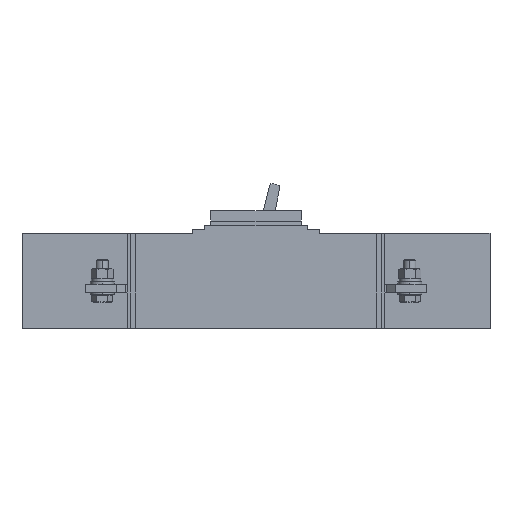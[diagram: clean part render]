
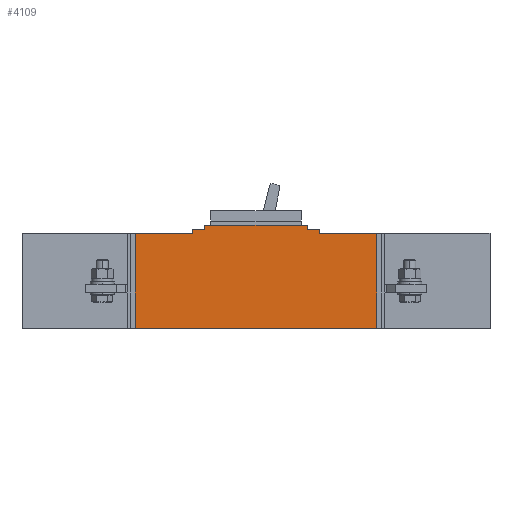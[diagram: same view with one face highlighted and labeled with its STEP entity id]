
A CAD part, left-side view. The second image highlights one B-rep face of the part: STEP entity #4109.
In plain terms, the highlighted planar face has unit normal (-1, 0, 0).
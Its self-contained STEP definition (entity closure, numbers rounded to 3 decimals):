
#77 = DIRECTION ( 'NONE',  ( 0., 0., -1. ) ) ;
#541 = LINE ( 'NONE', #14535, #3784 ) ;
#552 = CARTESIAN_POINT ( 'NONE',  ( -70., 171., 94.5 ) ) ;
#631 = ORIENTED_EDGE ( 'NONE', *, *, #16652, .F. ) ;
#657 = DIRECTION ( 'NONE',  ( 0., 0., 1. ) ) ;
#837 = LINE ( 'NONE', #16180, #13965 ) ;
#839 = ORIENTED_EDGE ( 'NONE', *, *, #13361, .F. ) ;
#986 = CARTESIAN_POINT ( 'NONE',  ( -70., 0., 103. ) ) ;
#1168 = PLANE ( 'NONE',  #16043 ) ;
#1431 = DIRECTION ( 'NONE',  ( 0., -1., 0. ) ) ;
#1918 = LINE ( 'NONE', #5655, #15638 ) ;
#2049 = VECTOR ( 'NONE', #5188, 1000. ) ;
#2078 = CARTESIAN_POINT ( 'NONE',  ( -70., 158.5, 103. ) ) ;
#2649 = VERTEX_POINT ( 'NONE', #3053 ) ;
#2755 = VERTEX_POINT ( 'NONE', #15342 ) ;
#3053 = CARTESIAN_POINT ( 'NONE',  ( -70., 56.5, 103. ) ) ;
#3335 = CARTESIAN_POINT ( 'NONE',  ( -70., 171., 0. ) ) ;
#3624 = VERTEX_POINT ( 'NONE', #4085 ) ;
#3784 = VECTOR ( 'NONE', #5730, 1000. ) ;
#3870 = DIRECTION ( 'NONE',  ( 1., 0., 0. ) ) ;
#4085 = CARTESIAN_POINT ( 'NONE',  ( -70., 44., 94.5 ) ) ;
#4109 = ADVANCED_FACE ( 'NONE', ( #14320 ), #1168, .F. ) ;
#4352 = VECTOR ( 'NONE', #6707, 1000. ) ;
#4741 = LINE ( 'NONE', #9949, #8581 ) ;
#4981 = VERTEX_POINT ( 'NONE', #12638 ) ;
#5013 = VECTOR ( 'NONE', #1431, 1000. ) ;
#5053 = DIRECTION ( 'NONE',  ( 0., 0., 1. ) ) ;
#5188 = DIRECTION ( 'NONE',  ( 0., 0., -1. ) ) ;
#5524 = LINE ( 'NONE', #10728, #2049 ) ;
#5539 = DIRECTION ( 'NONE',  ( 0., 0., -1. ) ) ;
#5655 = CARTESIAN_POINT ( 'NONE',  ( -70., 0., 94.5 ) ) ;
#5730 = DIRECTION ( 'NONE',  ( 0., 0., -1. ) ) ;
#5749 = ORIENTED_EDGE ( 'NONE', *, *, #14569, .F. ) ;
#6400 = VERTEX_POINT ( 'NONE', #12495 ) ;
#6679 = ORIENTED_EDGE ( 'NONE', *, *, #9158, .F. ) ;
#6707 = DIRECTION ( 'NONE',  ( 0., 1., 0. ) ) ;
#6843 = ORIENTED_EDGE ( 'NONE', *, *, #14597, .F. ) ;
#6978 = EDGE_CURVE ( 'NONE', #15934, #4981, #5524, .T. ) ;
#7107 = VECTOR ( 'NONE', #13893, 1000. ) ;
#7184 = EDGE_CURVE ( 'NONE', #10024, #3624, #4741, .T. ) ;
#7192 = LINE ( 'NONE', #986, #7107 ) ;
#7652 = VECTOR ( 'NONE', #657, 1000. ) ;
#7719 = EDGE_CURVE ( 'NONE', #15934, #12113, #1918, .T. ) ;
#7904 = LINE ( 'NONE', #9421, #5013 ) ;
#8010 = EDGE_LOOP ( 'NONE', ( #8754, #14228, #8889, #14758, #5749, #10273, #6679, #6843, #9960, #8696, #839, #631 ) ) ;
#8075 = CARTESIAN_POINT ( 'NONE',  ( -70., 44., 98.5 ) ) ;
#8581 = VECTOR ( 'NONE', #8992, 1000. ) ;
#8696 = ORIENTED_EDGE ( 'NONE', *, *, #6978, .T. ) ;
#8754 = ORIENTED_EDGE ( 'NONE', *, *, #9069, .F. ) ;
#8889 = ORIENTED_EDGE ( 'NONE', *, *, #15808, .F. ) ;
#8992 = DIRECTION ( 'NONE',  ( 0., 0., -1. ) ) ;
#9069 = EDGE_CURVE ( 'NONE', #3624, #12294, #7904, .T. ) ;
#9158 = EDGE_CURVE ( 'NONE', #13215, #2755, #837, .T. ) ;
#9373 = CARTESIAN_POINT ( 'NONE',  ( -70., -13., 0. ) ) ;
#9421 = CARTESIAN_POINT ( 'NONE',  ( -70., 0., 94.5 ) ) ;
#9518 = CARTESIAN_POINT ( 'NONE',  ( -70., -13., 0. ) ) ;
#9949 = CARTESIAN_POINT ( 'NONE',  ( -70., 44., 0. ) ) ;
#9960 = ORIENTED_EDGE ( 'NONE', *, *, #7719, .F. ) ;
#10024 = VERTEX_POINT ( 'NONE', #8075 ) ;
#10273 = ORIENTED_EDGE ( 'NONE', *, *, #16107, .F. ) ;
#10728 = CARTESIAN_POINT ( 'NONE',  ( -70., 228., 94.5 ) ) ;
#11078 = VECTOR ( 'NONE', #5539, 1000. ) ;
#11330 = VECTOR ( 'NONE', #13932, 1000. ) ;
#11649 = CARTESIAN_POINT ( 'NONE',  ( -70., 171., 98.5 ) ) ;
#12113 = VERTEX_POINT ( 'NONE', #552 ) ;
#12294 = VERTEX_POINT ( 'NONE', #15958 ) ;
#12401 = LINE ( 'NONE', #3335, #7652 ) ;
#12495 = CARTESIAN_POINT ( 'NONE',  ( -70., 56.5, 98.5 ) ) ;
#12572 = EDGE_CURVE ( 'NONE', #2649, #6400, #541, .T. ) ;
#12638 = CARTESIAN_POINT ( 'NONE',  ( -70., 228., 0. ) ) ;
#12772 = LINE ( 'NONE', #13851, #11330 ) ;
#12962 = VECTOR ( 'NONE', #5053, 1000. ) ;
#13189 = LINE ( 'NONE', #13265, #4352 ) ;
#13215 = VERTEX_POINT ( 'NONE', #11649 ) ;
#13265 = CARTESIAN_POINT ( 'NONE',  ( -70., -21., 0. ) ) ;
#13328 = VERTEX_POINT ( 'NONE', #2078 ) ;
#13361 = EDGE_CURVE ( 'NONE', #14108, #4981, #13189, .T. ) ;
#13376 = LINE ( 'NONE', #9373, #11078 ) ;
#13738 = DIRECTION ( 'NONE',  ( 0., -1., 0. ) ) ;
#13851 = CARTESIAN_POINT ( 'NONE',  ( -70., 0., 98.5 ) ) ;
#13893 = DIRECTION ( 'NONE',  ( 0., -1., 0. ) ) ;
#13932 = DIRECTION ( 'NONE',  ( 0., -1., 0. ) ) ;
#13965 = VECTOR ( 'NONE', #13738, 1000. ) ;
#14108 = VERTEX_POINT ( 'NONE', #9518 ) ;
#14228 = ORIENTED_EDGE ( 'NONE', *, *, #7184, .F. ) ;
#14320 = FACE_OUTER_BOUND ( 'NONE', #8010, .T. ) ;
#14535 = CARTESIAN_POINT ( 'NONE',  ( -70., 56.5, 0. ) ) ;
#14569 = EDGE_CURVE ( 'NONE', #13328, #2649, #7192, .T. ) ;
#14597 = EDGE_CURVE ( 'NONE', #12113, #13215, #12401, .T. ) ;
#14758 = ORIENTED_EDGE ( 'NONE', *, *, #12572, .F. ) ;
#15312 = LINE ( 'NONE', #15492, #12962 ) ;
#15342 = CARTESIAN_POINT ( 'NONE',  ( -70., 158.5, 98.5 ) ) ;
#15492 = CARTESIAN_POINT ( 'NONE',  ( -70., 158.5, 0. ) ) ;
#15530 = CARTESIAN_POINT ( 'NONE',  ( -70., 228., 94.5 ) ) ;
#15586 = CARTESIAN_POINT ( 'NONE',  ( -70., 0., 0. ) ) ;
#15638 = VECTOR ( 'NONE', #15831, 1000. ) ;
#15808 = EDGE_CURVE ( 'NONE', #6400, #10024, #12772, .T. ) ;
#15831 = DIRECTION ( 'NONE',  ( 0., -1., 0. ) ) ;
#15934 = VERTEX_POINT ( 'NONE', #15530 ) ;
#15958 = CARTESIAN_POINT ( 'NONE',  ( -70., -13., 94.5 ) ) ;
#16043 = AXIS2_PLACEMENT_3D ( 'NONE', #15586, #3870, #77 ) ;
#16107 = EDGE_CURVE ( 'NONE', #2755, #13328, #15312, .T. ) ;
#16180 = CARTESIAN_POINT ( 'NONE',  ( -70., 0., 98.5 ) ) ;
#16652 = EDGE_CURVE ( 'NONE', #12294, #14108, #13376, .T. ) ;
